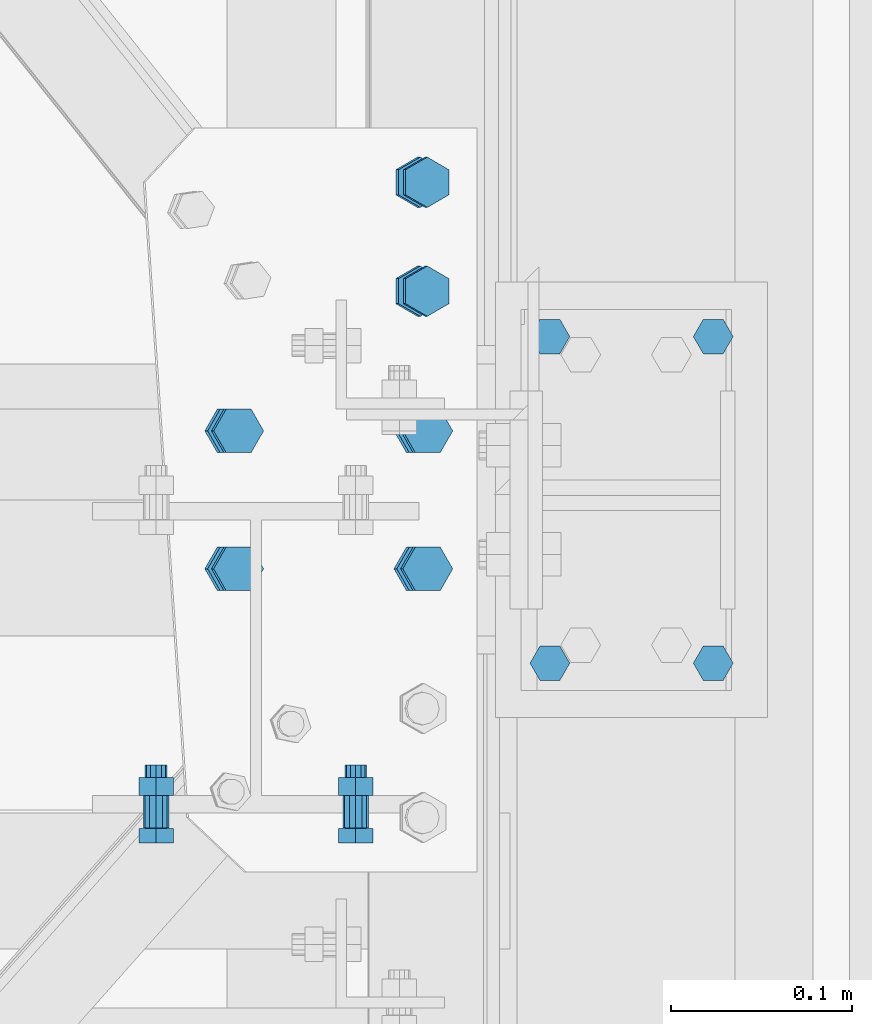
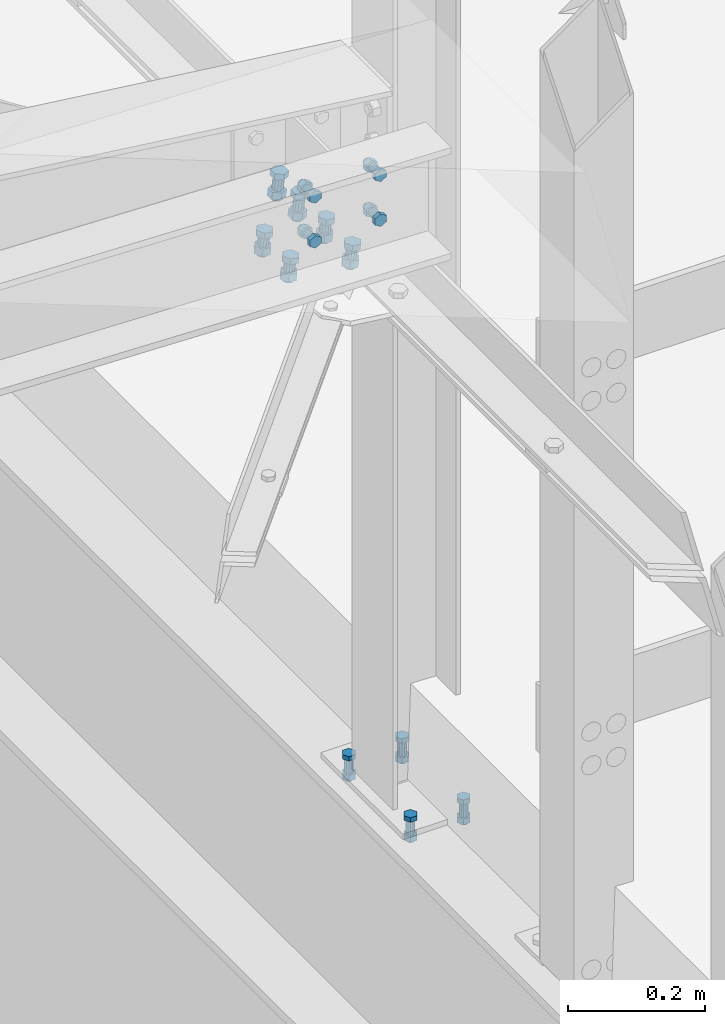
# One storey, part 365 of 3134: 4 mechanical fasteners, 4 elements without a shape of their own.
"""IFC2X3 building model written with IfcOpenShell, lengths in millimetres."""

import ifcopenshell
import ifcopenshell.guid

model = None  # the IFC model being written
_history = None  # IfcOwnerHistory: only IFC2X3 demands one
_inside = {}  # id of a spatial element -> (the spatial element, [elements in it])
_under = {}  # id of a project, library or spatial element -> (it, [spatial elements below it])
_declared = {}  # id of a project -> (the project, [libraries it declares])
_typed = {}  # id of a type object -> (the type object, [elements of that type])
_made_of = {}  # id of a material, layer set ... -> (it, [elements and type objects made of it])


def new_model(schema):
    """Start an empty IFC model of exactly this schema.

    Asked for "IFC4X3", IfcOpenShell would pick the latest addendum, in which some entities
    have other attributes; the version numbers below select the first issue.
    IFC2X3 requires an IfcOwnerHistory on every rooted entity: one is made here for all.
    """
    global model, _history
    if schema == "IFC4X3":
        model = ifcopenshell.file(schema_version=(4, 3, 0, 0))
    else:
        model = ifcopenshell.file(schema=schema)
    _inside.clear()
    _under.clear()
    _declared.clear()
    _typed.clear()
    _made_of.clear()
    _history = None
    if model.schema == "IFC2X3":
        org = make("IfcOrganization", Name="unknown")
        user = make(
            "IfcPersonAndOrganization",
            ThePerson=make("IfcPerson", FamilyName="unknown"),
            TheOrganization=org,
        )
        app = make(
            "IfcApplication",
            ApplicationDeveloper=org,
            Version="unknown",
            ApplicationFullName="unknown",
            ApplicationIdentifier="unknown",
        )
        _history = make(
            "IfcOwnerHistory",
            OwningUser=user,
            OwningApplication=app,
            ChangeAction="ADDED",
            CreationDate=0,
        )
    return model


def make(cls, **values):
    """One entity of the class cls with the attributes given. An attribute that is None is left unset."""
    return model.create_entity(
        cls, **{name: value for name, value in values.items() if value is not None}
    )


def rooted(cls, **values):
    """An entity with a GlobalId (a new one), such as an element, a storey or a relation."""
    return make(cls, GlobalId=ifcopenshell.guid.new(), OwnerHistory=_history, **values)


def si_unit(unit_type, name, prefix=None):
    """IfcSIUnit, for example si_unit("LENGTHUNIT", "METRE", prefix="MILLI")."""
    return make("IfcSIUnit", UnitType=unit_type, Prefix=prefix, Name=name)


def assignment(units):
    """IfcUnitAssignment: the units of a project."""
    return None if units is None else make("IfcUnitAssignment", Units=units)


def point(xyz):
    """IfcCartesianPoint."""
    return None if xyz is None else make("IfcCartesianPoint", Coordinates=xyz)


def direction(xyz):
    """IfcDirection."""
    return None if xyz is None else make("IfcDirection", DirectionRatios=xyz)


def frame(location, z_axis=None, x_axis=None):
    """IfcAxis2Placement3D, a coordinate frame: its origin and axes. An axis left out is left unset."""
    return make(
        "IfcAxis2Placement3D",
        Location=point(location),
        Axis=direction(z_axis),
        RefDirection=direction(x_axis),
    )


def origin_with_axes():
    """The frame at (0, 0, 0) with the z axis (0, 0, 1) and the x axis (1, 0, 0) written out."""
    return frame((0.0, 0.0, 0.0), z_axis=(0.0, 0.0, 1.0), x_axis=(1.0, 0.0, 0.0))


def place(relative_to, where):
    """IfcLocalPlacement: puts the frame where relative to a parent placement (None: the world)."""
    return make(
        "IfcLocalPlacement", PlacementRelTo=relative_to, RelativePlacement=where
    )


def context(
    kind, dimensions, precision=None, world=None, true_north=None, identifier=None
):
    """IfcGeometricRepresentationContext, for example the 3D "Model" context."""
    return make(
        "IfcGeometricRepresentationContext",
        ContextIdentifier=identifier,
        ContextType=kind,
        CoordinateSpaceDimension=dimensions,
        Precision=precision,
        WorldCoordinateSystem=world,
        TrueNorth=true_north,
    )


def subcontext(parent, identifier, kind, view, scale=None):
    """IfcGeometricRepresentationSubContext, for example "Body" below "Model"."""
    return make(
        "IfcGeometricRepresentationSubContext",
        ContextIdentifier=identifier,
        ContextType=kind,
        ParentContext=parent,
        TargetScale=scale,
        TargetView=view,
    )


def project(units=None, contexts=None):
    """IfcProject with its units and contexts."""
    return rooted(
        "IfcProject",
        Name="project",
        RepresentationContexts=contexts,
        UnitsInContext=assignment(units),
    )


def spatial(cls, under=None, at=None, **own):
    """A site, building, storey or space (cls), placed at a placement, below another one or the project."""
    s = rooted(cls, ObjectPlacement=at, **own)
    if under is not None:
        _under.setdefault(under.id(), (under, []))[1].append(s)
    return s


def faces_of(points, faces, orient=None, outer=None):
    """IfcFace entities. A face is a list of loops; a loop is a list of indices into points, from 0.

    orient and outer hold one flag for each loop. By default every Orientation is true, the
    first loop of a face is its IfcFaceOuterBound and the others are IfcFaceBound.
    """
    made = []
    for i, loops in enumerate(faces):
        bounds = []
        for j, loop in enumerate(loops):
            is_outer = j == 0 if outer is None else outer[i][j]
            bounds.append(
                make(
                    "IfcFaceOuterBound" if is_outer else "IfcFaceBound",
                    Bound=make("IfcPolyLoop", Polygon=[points[k] for k in loop]),
                    Orientation=True if orient is None else orient[i][j],
                )
            )
        made.append(make("IfcFace", Bounds=bounds))
    return made


def faceted_brep(points, faces, orient=None, outer=None, voids=None):
    """IfcFacetedBrep: a solid bounded by flat faces; with voids (closed shells), ...WithVoids."""
    shared = [point(p) for p in points]
    hull = make("IfcClosedShell", CfsFaces=faces_of(shared, faces, orient, outer))
    if voids is None:
        return make("IfcFacetedBrep", Outer=hull)
    return make(
        "IfcFacetedBrepWithVoids",
        Outer=hull,
        Voids=[
            make(cls, CfsFaces=faces_of(shared, fs, o, b)) for cls, fs, o, b in voids
        ],
    )


def shape(context_of_items, identifier, shape_type, items):
    """IfcShapeRepresentation: the items that make up one representation, for example the "Body"."""
    return make(
        "IfcShapeRepresentation",
        ContextOfItems=context_of_items,
        RepresentationIdentifier=identifier,
        RepresentationType=shape_type,
        Items=items,
    )


def source(mapping_origin, context_of_items, identifier, shape_type, items):
    """IfcRepresentationMap: a shape defined once, which mapped items show again and again."""
    return make(
        "IfcRepresentationMap",
        MappingOrigin=mapping_origin,
        MappedRepresentation=shape(context_of_items, identifier, shape_type, items),
    )


def transform(
    local_origin,
    x_axis=None,
    y_axis=None,
    z_axis=None,
    scale=None,
    scale2=None,
    scale3=None,
    uniform=True,
):
    """IfcCartesianTransformationOperator3D, or its non-uniform kind. x_axis, y_axis, z_axis: its Axis1, 2, 3."""
    if uniform:
        return make(
            "IfcCartesianTransformationOperator3D",
            Axis1=direction(x_axis),
            Axis2=direction(y_axis),
            LocalOrigin=point(local_origin),
            Scale=scale,
            Axis3=direction(z_axis),
        )
    return make(
        "IfcCartesianTransformationOperator3DnonUniform",
        Axis1=direction(x_axis),
        Axis2=direction(y_axis),
        LocalOrigin=point(local_origin),
        Scale=scale,
        Axis3=direction(z_axis),
        Scale2=scale2,
        Scale3=scale3,
    )


def mapped(mapping_source, mapping_target):
    """IfcMappedItem: shows the shape of a source again, moved by a transform."""
    return make(
        "IfcMappedItem", MappingSource=mapping_source, MappingTarget=mapping_target
    )


def material(Name=None, Category=None):
    """IfcMaterial."""
    return make("IfcMaterial", Name=Name, Category=Category)


def made_of(thing, what):
    """Note that an element or type object is made of a material, layer set ...; save() writes the relation."""
    if what is not None:
        _made_of.setdefault(what.id(), (what, []))[1].append(thing)
    return thing


def type_object(cls, material=None, **own):
    """A type object (cls), such as IfcWallType, which elements share."""
    return made_of(rooted(cls, **own), material)


def element(
    cls,
    number,
    at=None,
    inside=None,
    cuts=None,
    type_object=None,
    material=None,
    context=None,
    identifier="Body",
    shape_type=None,
    held_by="IfcProductDefinitionShape",
    body=None,
    shapes=None,
    **own,
):
    """One element of the class cls, such as IfcWall. Its Tag is "e" and its number.

    at: its placement. inside: the storey or other place that contains it. cuts: it is an
    opening in that element (IfcRelVoidsElement). A single representation is given by context,
    identifier, shape_type and body (its items); several are given by shapes. held_by: the class
    of the entity that holds the representations. save() writes the other relations.
    """
    e = rooted(cls, Tag="e%d" % number, ObjectPlacement=at, **own)
    if body is not None:
        shapes = [shape(context, identifier, shape_type, body)]
    if shapes is not None:
        e.Representation = make(held_by, Representations=shapes)
    if inside is not None:
        _inside.setdefault(inside.id(), (inside, []))[1].append(e)
    if cuts is not None:
        rooted(
            "IfcRelVoidsElement", RelatingBuildingElement=cuts, RelatedOpeningElement=e
        )
    if type_object is not None:
        _typed.setdefault(type_object.id(), (type_object, []))[1].append(e)
    return made_of(e, material)


def aggregate(whole, parts):
    """IfcRelAggregates: a whole, such as a stair, and the parts it consists of."""
    return rooted("IfcRelAggregates", RelatingObject=whole, RelatedObjects=parts)


def save(model, path):
    """Write the relations noted so far, then the file.

    IfcRelAggregates (storeys below a building ...), IfcRelContainedInSpatialStructure (elements
    in a storey), IfcRelDefinesByType, IfcRelAssociatesMaterial and IfcRelDeclares: one each for
    every whole, place, type object, material and project.
    """
    for whole, parts in _under.values():
        aggregate(whole, parts)
    for where, things in _inside.values():
        rooted(
            "IfcRelContainedInSpatialStructure",
            RelatedElements=things,
            RelatingStructure=where,
        )
    for kind, things in _typed.values():
        rooted("IfcRelDefinesByType", RelatedObjects=things, RelatingType=kind)
    for what, things in _made_of.values():
        rooted("IfcRelAssociatesMaterial", RelatedObjects=things, RelatingMaterial=what)
    for by, libraries in _declared.values():
        rooted("IfcRelDeclares", RelatingContext=by, RelatedDefinitions=libraries)
    model.write(path)


model = new_model("IFC2X3")

# Units and contexts
model_context = context("Model", 3, precision=1e-05, world=origin_with_axes())
body_context = subcontext(model_context, "Body", "Model", "MODEL_VIEW")
ifc_project = project(units=[si_unit("LENGTHUNIT", "METRE", prefix="MILLI"), si_unit("AREAUNIT", "SQUARE_METRE"), si_unit("VOLUMEUNIT", "CUBIC_METRE"), si_unit("MASSUNIT", "GRAM", prefix="KILO"), si_unit("TIMEUNIT", "SECOND"), si_unit("PLANEANGLEUNIT", "RADIAN"), si_unit("SOLIDANGLEUNIT", "STERADIAN"), si_unit("THERMODYNAMICTEMPERATUREUNIT", "DEGREE_CELSIUS"), si_unit("LUMINOUSINTENSITYUNIT", "LUMEN")], contexts=[model_context])

# Site, building, storey
site_placement = place(None, origin_with_axes())
site = spatial("IfcSite", under=ifc_project, at=site_placement, CompositionType="ELEMENT")
building_placement = place(site_placement, origin_with_axes())
building = spatial("IfcBuilding", under=site, at=building_placement, Name="Undefined", CompositionType="ELEMENT")
storey_placement = place(building_placement, origin_with_axes())
storey = spatial("IfcBuildingStorey", under=building, at=storey_placement, Name="Undefined", CompositionType="ELEMENT", Elevation=0.0)

# Assembly, mechanical fastener
assembly_1_placement = place(storey_placement, origin_with_axes())
assembly_1 = element("IfcElementAssembly", 1, at=assembly_1_placement, inside=storey, Name="IPE500", AssemblyPlace="NOTDEFINED", PredefinedType="RIGID_FRAME")
ifc_material = material(Name="8.8")
mechanical_fastener_type = type_object("IfcMechanicalFastenerType", Name="Bolt assembly")
shared_shape_1 = source(origin_with_axes(), body_context, "Body", "Brep", [
    faceted_brep([(10.9696551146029, -18.0, 0.0), (5.48482755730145, -18.0, 9.5), (-5.48482755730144, -18.0, 9.5), (-10.9696551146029, -18.0, 1.34339530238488e-15), (-5.48482755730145, -18.0, -9.5), (5.48482755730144, -18.0, -9.50000000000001), (5.48482755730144, -10.0, -9.50000000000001), (-5.48482755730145, -10.0, -9.5), (-10.9696551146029, -10.0, 1.34339530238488e-15), (-5.48482755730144, -10.0, 9.5), (5.48482755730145, -10.0, 9.5), (10.9696551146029, -10.0, 0.0), (6.0, -10.0, 0.0), (5.19615242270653, -10.0, 3.00000000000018), (2.99999999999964, -10.0, 5.19615242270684), (-6.21801588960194e-13, -10.0, 6.0), (-3.00000000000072, -10.0, 5.19615242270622), (-5.19615242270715, -10.0, 2.9999999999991), (-6.0, -10.0, -1.24360317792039e-12), (-5.19615242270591, -10.0, -3.00000000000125), (-2.99999999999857, -10.0, -5.19615242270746), (1.85874342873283e-12, -10.0, -6.0), (3.00000000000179, -10.0, -5.1961524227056), (5.19615242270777, -10.0, -2.99999999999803), (5.19615242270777, 30.0, -2.99999999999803), (3.00000000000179, 30.0, -5.1961524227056), (1.85874342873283e-12, 30.0, -6.0), (-2.99999999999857, 30.0, -5.19615242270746), (-5.19615242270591, 30.0, -3.00000000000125), (-6.0, 30.0, -1.24360317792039e-12), (-5.19615242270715, 30.0, 2.9999999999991), (-3.00000000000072, 30.0, 5.19615242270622), (-6.21801588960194e-13, 30.0, 6.0), (2.99999999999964, 30.0, 5.19615242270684), (5.19615242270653, 30.0, 3.00000000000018), (6.0, 30.0, 0.0), (10.9696551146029, 16.0, 0.0), (5.48482755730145, 16.0, 9.5), (-5.48482755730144, 16.0, 9.5), (-10.9696551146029, 16.0, 1.34339530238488e-15), (-5.48482755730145, 16.0, -9.5), (5.48482755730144, 16.0, -9.50000000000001), (5.48482755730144, 26.0000003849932, -9.50000000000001), (-5.48482755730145, 26.0000003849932, -9.5), (-10.9696551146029, 26.0000003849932, 1.34339530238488e-15), (-5.48482755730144, 26.0000003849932, 9.5), (5.48482755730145, 26.0000003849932, 9.5), (10.9696551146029, 26.0000003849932, 0.0)], [[[0, 1, 2, 3, 4, 5]], [[6, 7, 8, 9, 10, 11]], [[0, 11, 10, 1]], [[1, 10, 9, 2]], [[2, 9, 8, 3]], [[3, 8, 7, 4]], [[4, 7, 6, 5]], [[5, 6, 11, 0]], [[12, 13, 14, 15, 16, 17, 18, 19, 20, 21, 22, 23]], [[24, 25, 26, 27, 28, 29, 30, 31, 32, 33, 34, 35]], [[12, 35, 34, 13]], [[13, 34, 33, 14]], [[14, 33, 32, 15]], [[15, 32, 31, 16]], [[16, 31, 30, 17]], [[17, 30, 29, 18]], [[18, 29, 28, 19]], [[19, 28, 27, 20]], [[20, 27, 26, 21]], [[21, 26, 25, 22]], [[22, 25, 24, 23]], [[23, 24, 35, 12]], [[36, 37, 38, 39, 40, 41]], [[42, 43, 44, 45, 46, 47]], [[36, 47, 46, 37]], [[37, 46, 45, 38]], [[38, 45, 44, 39]], [[39, 44, 43, 40]], [[40, 43, 42, 41]], [[41, 42, 47, 36]]]),
    faceted_brep([(7.0, -9.89999913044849, 0.0), (6.06217782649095, -9.89999913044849, 3.50000000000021), (3.49999999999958, -9.89999913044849, 6.06217782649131), (-7.25435187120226e-13, -9.89999913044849, 7.0), (-3.50000000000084, -9.89999913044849, 6.06217782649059), (-6.06217782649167, -9.89999913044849, 3.49999999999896), (-7.0, -9.89999913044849, -1.45087037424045e-12), (-6.06217782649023, -9.89999913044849, -3.50000000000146), (-3.49999999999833, -9.89999913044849, -6.06217782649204), (2.1685340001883e-12, -9.89999913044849, -7.0), (3.50000000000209, -9.89999913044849, -6.06217782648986), (6.0621778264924, -9.89999913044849, -3.4999999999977), (6.0621778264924, 0.0999999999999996, -3.4999999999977), (3.50000000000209, 0.0999999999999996, -6.06217782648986), (2.1685340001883e-12, 0.0999999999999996, -7.0), (-3.49999999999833, 0.0999999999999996, -6.06217782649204), (-6.06217782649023, 0.0999999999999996, -3.50000000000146), (-7.0, 0.0999999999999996, -1.45087037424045e-12), (-6.06217782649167, 0.0999999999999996, 3.49999999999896), (-3.50000000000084, 0.0999999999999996, 6.06217782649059), (-7.25435187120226e-13, 0.0999999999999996, 7.0), (3.49999999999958, 0.0999999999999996, 6.06217782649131), (6.06217782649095, 0.0999999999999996, 3.50000000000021), (7.0, 0.0999999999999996, 0.0), (7.0, -0.1, 0.0), (6.06217782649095, -0.1, 3.50000000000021), (3.49999999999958, -0.1, 6.06217782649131), (-7.25435187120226e-13, -0.1, 7.0), (-3.50000000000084, -0.1, 6.06217782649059), (-6.06217782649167, -0.1, 3.49999999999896), (-7.0, -0.1, -1.45087037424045e-12), (-6.06217782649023, -0.1, -3.50000000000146), (-3.49999999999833, -0.1, -6.06217782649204), (2.1685340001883e-12, -0.1, -7.0), (3.50000000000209, -0.1, -6.06217782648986), (6.0621778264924, -0.1, -3.4999999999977), (6.0621778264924, 16.0000003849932, -3.4999999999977), (3.50000000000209, 16.0000003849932, -6.06217782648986), (2.1685340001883e-12, 16.0000003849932, -7.0), (-3.49999999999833, 16.0000003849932, -6.06217782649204), (-6.06217782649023, 16.0000003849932, -3.50000000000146), (-7.0, 16.0000003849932, -1.45087037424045e-12), (-6.06217782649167, 16.0000003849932, 3.49999999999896), (-3.50000000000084, 16.0000003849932, 6.06217782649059), (-7.25435187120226e-13, 16.0000003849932, 7.0), (3.49999999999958, 16.0000003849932, 6.06217782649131), (6.06217782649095, 16.0000003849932, 3.50000000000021), (7.0, 16.0000003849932, 0.0)], [[[0, 1, 2, 3, 4, 5, 6, 7, 8, 9, 10, 11]], [[12, 13, 14, 15, 16, 17, 18, 19, 20, 21, 22, 23]], [[0, 23, 22, 1]], [[1, 22, 21, 2]], [[2, 21, 20, 3]], [[3, 20, 19, 4]], [[4, 19, 18, 5]], [[5, 18, 17, 6]], [[6, 17, 16, 7]], [[7, 16, 15, 8]], [[8, 15, 14, 9]], [[9, 14, 13, 10]], [[10, 13, 12, 11]], [[11, 12, 23, 0]], [[24, 25, 26, 27, 28, 29, 30, 31, 32, 33, 34, 35]], [[36, 37, 38, 39, 40, 41, 42, 43, 44, 45, 46, 47]], [[24, 47, 46, 25]], [[25, 46, 45, 26]], [[26, 45, 44, 27]], [[27, 44, 43, 28]], [[28, 43, 42, 29]], [[29, 42, 41, 30]], [[30, 41, 40, 31]], [[31, 40, 39, 32]], [[32, 39, 38, 33]], [[33, 38, 37, 34]], [[34, 37, 36, 35]], [[35, 36, 47, 24]]]),
])
mechanical_fastener_1_placement = place(assembly_1_placement, frame((71770.0, 19449.9999999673, 4000.00000038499), z_axis=(0.0, 1.0, 0.0), x_axis=(1.0, 0.0, 0.0)))
mechanical_fastener_1 = element("IfcMechanicalFastener", 2, at=mechanical_fastener_1_placement, type_object=mechanical_fastener_type, material=ifc_material, Name="Bolt assembly", NominalDiameter=12.0, NominalLength=40.0, context=body_context, shape_type="MappedRepresentation", body=[
    mapped(shared_shape_1, transform((0.0, 0.0, -90.0))),
    mapped(shared_shape_1, transform((90.0, 0.0, -90.0))),
    mapped(shared_shape_1, transform((0.0, 0.0, 90.0))),
    mapped(shared_shape_1, transform((90.0, 0.0, 90.0))),
])
aggregate(assembly_1, [mechanical_fastener_1])

assembly_2_placement = place(storey_placement, origin_with_axes())
assembly_2 = element("IfcElementAssembly", 3, at=assembly_2_placement, inside=storey, Name="UPN200", AssemblyPlace="NOTDEFINED", PredefinedType="RIGID_FRAME")
shared_shape_2 = source(origin_with_axes(), body_context, "Body", "Brep", [
    faceted_brep([(10.9696551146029, -16.5, 0.0), (5.48482755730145, -16.5, 9.5), (-5.48482755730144, -16.5, 9.5), (-10.9696551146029, -16.5, 1.34339530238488e-15), (-5.48482755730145, -16.5, -9.5), (5.48482755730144, -16.5, -9.50000000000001), (5.48482755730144, -8.5, -9.50000000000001), (-5.48482755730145, -8.5, -9.5), (-10.9696551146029, -8.5, 1.34339530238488e-15), (-5.48482755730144, -8.5, 9.5), (5.48482755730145, -8.5, 9.5), (10.9696551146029, -8.5, 0.0), (6.0, -8.5, 0.0), (5.19615242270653, -8.5, 3.00000000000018), (2.99999999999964, -8.5, 5.19615242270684), (-6.21801588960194e-13, -8.5, 6.0), (-3.00000000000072, -8.5, 5.19615242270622), (-5.19615242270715, -8.5, 2.9999999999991), (-6.0, -8.5, -1.24360317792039e-12), (-5.19615242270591, -8.5, -3.00000000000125), (-2.99999999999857, -8.5, -5.19615242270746), (1.85874342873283e-12, -8.5, -6.0), (3.00000000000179, -8.5, -5.1961524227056), (5.19615242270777, -8.5, -2.99999999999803), (5.19615242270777, 26.5, -2.99999999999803), (3.00000000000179, 26.5, -5.1961524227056), (1.85874342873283e-12, 26.5, -6.0), (-2.99999999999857, 26.5, -5.19615242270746), (-5.19615242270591, 26.5, -3.00000000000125), (-6.0, 26.5, -1.24360317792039e-12), (-5.19615242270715, 26.5, 2.9999999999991), (-3.00000000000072, 26.5, 5.19615242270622), (-6.21801588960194e-13, 26.5, 6.0), (2.99999999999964, 26.5, 5.19615242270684), (5.19615242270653, 26.5, 3.00000000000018), (6.0, 26.5, 0.0), (10.9696551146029, 9.5, 0.0), (5.48482755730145, 9.5, 9.5), (-5.48482755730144, 9.5, 9.5), (-10.9696551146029, 9.5, 1.34339530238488e-15), (-5.48482755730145, 9.5, -9.5), (5.48482755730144, 9.5, -9.50000000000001), (5.48482755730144, 19.5, -9.50000000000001), (-5.48482755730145, 19.5, -9.5), (-10.9696551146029, 19.5, 1.34339530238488e-15), (-5.48482755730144, 19.5, 9.5), (5.48482755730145, 19.5, 9.5), (10.9696551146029, 19.5, 0.0)], [[[0, 1, 2, 3, 4, 5]], [[6, 7, 8, 9, 10, 11]], [[0, 11, 10, 1]], [[1, 10, 9, 2]], [[2, 9, 8, 3]], [[3, 8, 7, 4]], [[4, 7, 6, 5]], [[5, 6, 11, 0]], [[12, 13, 14, 15, 16, 17, 18, 19, 20, 21, 22, 23]], [[24, 25, 26, 27, 28, 29, 30, 31, 32, 33, 34, 35]], [[12, 35, 34, 13]], [[13, 34, 33, 14]], [[14, 33, 32, 15]], [[15, 32, 31, 16]], [[16, 31, 30, 17]], [[17, 30, 29, 18]], [[18, 29, 28, 19]], [[19, 28, 27, 20]], [[20, 27, 26, 21]], [[21, 26, 25, 22]], [[22, 25, 24, 23]], [[23, 24, 35, 12]], [[36, 37, 38, 39, 40, 41]], [[42, 43, 44, 45, 46, 47]], [[36, 47, 46, 37]], [[37, 46, 45, 38]], [[38, 45, 44, 39]], [[39, 44, 43, 40]], [[40, 43, 42, 41]], [[41, 42, 47, 36]]]),
    faceted_brep([(7.0, -0.1, 0.0), (6.06217782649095, -0.1, 3.50000000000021), (3.49999999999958, -0.1, 6.06217782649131), (-7.25435187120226e-13, -0.1, 7.0), (-3.50000000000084, -0.1, 6.06217782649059), (-6.06217782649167, -0.1, 3.49999999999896), (-7.0, -0.1, -1.45087037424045e-12), (-6.06217782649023, -0.1, -3.50000000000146), (-3.49999999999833, -0.1, -6.06217782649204), (2.1685340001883e-12, -0.1, -7.0), (3.50000000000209, -0.1, -6.06217782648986), (6.0621778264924, -0.1, -3.4999999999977), (6.0621778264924, 9.5, -3.4999999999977), (3.50000000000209, 9.5, -6.06217782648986), (2.1685340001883e-12, 9.5, -7.0), (-3.49999999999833, 9.5, -6.06217782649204), (-6.06217782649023, 9.5, -3.50000000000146), (-7.0, 9.5, -1.45087037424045e-12), (-6.06217782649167, 9.5, 3.49999999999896), (-3.50000000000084, 9.5, 6.06217782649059), (-7.25435187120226e-13, 9.5, 7.0), (3.49999999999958, 9.5, 6.06217782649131), (6.06217782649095, 9.5, 3.50000000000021), (7.0, 9.5, 0.0), (7.0, -8.4, 0.0), (6.06217782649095, -8.4, 3.50000000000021), (3.49999999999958, -8.4, 6.06217782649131), (-7.25435187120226e-13, -8.4, 7.0), (-3.50000000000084, -8.4, 6.06217782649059), (-6.06217782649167, -8.4, 3.49999999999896), (-7.0, -8.4, -1.45087037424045e-12), (-6.06217782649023, -8.4, -3.50000000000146), (-3.49999999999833, -8.4, -6.06217782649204), (2.1685340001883e-12, -8.4, -7.0), (3.50000000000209, -8.4, -6.06217782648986), (6.0621778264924, -8.4, -3.4999999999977), (6.0621778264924, 0.0999999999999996, -3.4999999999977), (3.50000000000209, 0.0999999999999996, -6.06217782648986), (2.1685340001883e-12, 0.0999999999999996, -7.0), (-3.49999999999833, 0.0999999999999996, -6.06217782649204), (-6.06217782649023, 0.0999999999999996, -3.50000000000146), (-7.0, 0.0999999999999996, -1.45087037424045e-12), (-6.06217782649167, 0.0999999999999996, 3.49999999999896), (-3.50000000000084, 0.0999999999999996, 6.06217782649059), (-7.25435187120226e-13, 0.0999999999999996, 7.0), (3.49999999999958, 0.0999999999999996, 6.06217782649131), (6.06217782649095, 0.0999999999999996, 3.50000000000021), (7.0, 0.0999999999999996, 0.0)], [[[0, 1, 2, 3, 4, 5, 6, 7, 8, 9, 10, 11]], [[12, 13, 14, 15, 16, 17, 18, 19, 20, 21, 22, 23]], [[0, 23, 22, 1]], [[1, 22, 21, 2]], [[2, 21, 20, 3]], [[3, 20, 19, 4]], [[4, 19, 18, 5]], [[5, 18, 17, 6]], [[6, 17, 16, 7]], [[7, 16, 15, 8]], [[8, 15, 14, 9]], [[9, 14, 13, 10]], [[10, 13, 12, 11]], [[11, 12, 23, 0]], [[24, 25, 26, 27, 28, 29, 30, 31, 32, 33, 34, 35]], [[36, 37, 38, 39, 40, 41, 42, 43, 44, 45, 46, 47]], [[24, 47, 46, 25]], [[25, 46, 45, 26]], [[26, 45, 44, 27]], [[27, 44, 43, 28]], [[28, 43, 42, 29]], [[29, 42, 41, 30]], [[30, 41, 40, 31]], [[31, 40, 39, 32]], [[32, 39, 38, 33]], [[33, 38, 37, 34]], [[34, 37, 36, 35]], [[35, 36, 47, 24]]]),
])
mechanical_fastener_2_placement = place(assembly_2_placement, frame((71608.0000002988, 19277.5, 5254.15696472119), z_axis=(1.0, 0.0, 0.0), x_axis=(0.0, 0.0, -1.0)))
mechanical_fastener_2 = element("IfcMechanicalFastener", 4, at=mechanical_fastener_2_placement, type_object=mechanical_fastener_type, material=ifc_material, Name="Bolt assembly", NominalDiameter=12.0, NominalLength=35.0, context=body_context, shape_type="MappedRepresentation", body=[
    mapped(shared_shape_2, transform((0.0, -2.31011654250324e-10, -55.0000000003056))),
    mapped(shared_shape_2, transform((80.0, 0.0, -55.0))),
    mapped(shared_shape_2, transform((0.0, 2.29192664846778e-10, 55.0000000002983))),
    mapped(shared_shape_2, transform((80.0, 0.0, 55.0))),
])
aggregate(assembly_2, [mechanical_fastener_2])

assembly_3_placement = place(storey_placement, origin_with_axes())
assembly_3 = element("IfcElementAssembly", 5, at=assembly_3_placement, inside=storey, Name="PL8", AssemblyPlace="NOTDEFINED", PredefinedType="RIGID_FRAME")
shared_shape_3 = source(origin_with_axes(), body_context, "Body", "Brep", [
    faceted_brep([(13.856406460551, -23.202981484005, 0.0), (6.92820323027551, -23.202981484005, 12.0), (-6.92820323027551, -23.202981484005, 12.0), (-13.856406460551, -23.202981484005, 1.69692038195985e-15), (-6.92820323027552, -23.202981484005, -12.0), (6.9282032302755, -23.202981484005, -12.0), (6.9282032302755, -13.202981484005, -12.0), (-6.92820323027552, -13.202981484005, -12.0), (-13.856406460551, -13.202981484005, 1.69692038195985e-15), (-6.92820323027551, -13.202981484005, 12.0), (6.92820323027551, -13.202981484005, 12.0), (13.856406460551, -13.202981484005, 0.0), (8.0, -13.202981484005, 0.0), (6.92820323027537, -13.202981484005, 4.00000000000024), (3.99999999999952, -13.202981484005, 6.92820323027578), (-8.29068785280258e-13, -13.202981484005, 8.0), (-4.00000000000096, -13.202981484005, 6.92820323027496), (-6.9282032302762, -13.202981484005, 3.99999999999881), (-8.0, -13.202981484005, -1.65813757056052e-12), (-6.92820323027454, -13.202981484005, -4.00000000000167), (-3.99999999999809, -13.202981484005, -6.92820323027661), (2.47832457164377e-12, -13.202981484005, -8.0), (4.00000000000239, -13.202981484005, -6.92820323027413), (6.92820323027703, -13.202981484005, -3.99999999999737), (6.92820323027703, 21.797018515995, -3.99999999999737), (4.00000000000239, 21.797018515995, -6.92820323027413), (2.47832457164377e-12, 21.797018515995, -8.0), (-3.99999999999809, 21.797018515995, -6.92820323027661), (-6.92820323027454, 21.797018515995, -4.00000000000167), (-8.0, 21.797018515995, -1.65813757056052e-12), (-6.9282032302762, 21.797018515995, 3.99999999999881), (-4.00000000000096, 21.797018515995, 6.92820323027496), (-8.29068785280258e-13, 21.797018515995, 8.0), (3.99999999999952, 21.797018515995, 6.92820323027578), (6.92820323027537, 21.797018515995, 4.00000000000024), (8.0, 21.797018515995, 0.0), (13.856406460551, 3.99999999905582, 0.0), (6.92820323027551, 3.99999999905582, 12.0), (-6.92820323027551, 3.99999999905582, 12.0), (-13.856406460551, 3.99999999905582, 1.69692038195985e-15), (-6.92820323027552, 3.99999999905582, -12.0), (6.9282032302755, 3.99999999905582, -12.0), (6.9282032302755, 16.9999999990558, -12.0), (-6.92820323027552, 16.9999999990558, -12.0), (-13.856406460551, 16.9999999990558, 1.69692038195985e-15), (-6.92820323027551, 16.9999999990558, 12.0), (6.92820323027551, 16.9999999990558, 12.0), (13.856406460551, 16.9999999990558, 0.0)], [[[0, 1, 2, 3, 4, 5]], [[6, 7, 8, 9, 10, 11]], [[0, 11, 10, 1]], [[1, 10, 9, 2]], [[2, 9, 8, 3]], [[3, 8, 7, 4]], [[4, 7, 6, 5]], [[5, 6, 11, 0]], [[12, 13, 14, 15, 16, 17, 18, 19, 20, 21, 22, 23]], [[24, 25, 26, 27, 28, 29, 30, 31, 32, 33, 34, 35]], [[12, 35, 34, 13]], [[13, 34, 33, 14]], [[14, 33, 32, 15]], [[15, 32, 31, 16]], [[16, 31, 30, 17]], [[17, 30, 29, 18]], [[18, 29, 28, 19]], [[19, 28, 27, 20]], [[20, 27, 26, 21]], [[21, 26, 25, 22]], [[22, 25, 24, 23]], [[23, 24, 35, 12]], [[36, 37, 38, 39, 40, 41]], [[42, 43, 44, 45, 46, 47]], [[36, 47, 46, 37]], [[37, 46, 45, 38]], [[38, 45, 44, 39]], [[39, 44, 43, 40]], [[40, 43, 42, 41]], [[41, 42, 47, 36]]]),
    faceted_brep([(9.0, -13.102981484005, 0.0), (7.79422863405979, -13.102981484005, 4.50000000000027), (4.49999999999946, -13.102981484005, 7.79422863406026), (-9.3270238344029e-13, -13.102981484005, 9.0), (-4.50000000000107, -13.102981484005, 7.79422863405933), (-7.79422863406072, -13.102981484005, 4.49999999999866), (-9.0, -13.102981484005, -1.86540476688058e-12), (-7.79422863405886, -13.102981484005, -4.50000000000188), (-4.49999999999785, -13.102981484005, -7.79422863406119), (2.78811514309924e-12, -13.102981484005, -9.0), (4.50000000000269, -13.102981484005, -7.7942286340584), (7.79422863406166, -13.102981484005, -4.49999999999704), (7.79422863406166, -3.90298167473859, -4.49999999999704), (4.50000000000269, -3.90298167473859, -7.7942286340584), (2.78811514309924e-12, -3.90298167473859, -9.0), (-4.49999999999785, -3.90298167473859, -7.79422863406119), (-7.79422863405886, -3.90298167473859, -4.50000000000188), (-9.0, -3.90298167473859, -1.86540476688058e-12), (-7.79422863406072, -3.90298167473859, 4.49999999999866), (-4.50000000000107, -3.90298167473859, 7.79422863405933), (-9.3270238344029e-13, -3.90298167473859, 9.0), (4.49999999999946, -3.90298167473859, 7.79422863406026), (7.79422863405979, -3.90298167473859, 4.50000000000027), (9.0, -3.90298167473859, 0.0), (9.0, -4.10000000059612, 0.0), (7.79422863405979, -4.10000000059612, 4.50000000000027), (4.49999999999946, -4.10000000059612, 7.79422863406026), (-9.3270238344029e-13, -4.10000000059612, 9.0), (-4.50000000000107, -4.10000000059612, 7.79422863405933), (-7.79422863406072, -4.10000000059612, 4.49999999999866), (-9.0, -4.10000000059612, -1.86540476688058e-12), (-7.79422863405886, -4.10000000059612, -4.50000000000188), (-4.49999999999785, -4.10000000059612, -7.79422863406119), (2.78811514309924e-12, -4.10000000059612, -9.0), (4.50000000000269, -4.10000000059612, -7.7942286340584), (7.79422863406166, -4.10000000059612, -4.49999999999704), (7.79422863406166, 4.00000375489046, -4.49999999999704), (4.50000000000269, 4.00000375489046, -7.7942286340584), (2.78811514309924e-12, 4.00000375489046, -9.0), (-4.49999999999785, 4.00000375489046, -7.79422863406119), (-7.79422863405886, 4.00000375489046, -4.50000000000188), (-9.0, 4.00000375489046, -1.86540476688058e-12), (-7.79422863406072, 4.00000375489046, 4.49999999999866), (-4.50000000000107, 4.00000375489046, 7.79422863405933), (-9.3270238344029e-13, 4.00000375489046, 9.0), (4.49999999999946, 4.00000375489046, 7.79422863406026), (7.79422863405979, 4.00000375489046, 4.50000000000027), (9.0, 4.00000375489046, 0.0)], [[[0, 1, 2, 3, 4, 5, 6, 7, 8, 9, 10, 11]], [[12, 13, 14, 15, 16, 17, 18, 19, 20, 21, 22, 23]], [[0, 23, 22, 1]], [[1, 22, 21, 2]], [[2, 21, 20, 3]], [[3, 20, 19, 4]], [[4, 19, 18, 5]], [[5, 18, 17, 6]], [[6, 17, 16, 7]], [[7, 16, 15, 8]], [[8, 15, 14, 9]], [[9, 14, 13, 10]], [[10, 13, 12, 11]], [[11, 12, 23, 0]], [[24, 25, 26, 27, 28, 29, 30, 31, 32, 33, 34, 35]], [[36, 37, 38, 39, 40, 41, 42, 43, 44, 45, 46, 47]], [[24, 47, 46, 25]], [[25, 46, 45, 26]], [[26, 45, 44, 27]], [[27, 44, 43, 28]], [[28, 43, 42, 29]], [[29, 42, 41, 30]], [[30, 41, 40, 31]], [[31, 40, 39, 32]], [[32, 39, 38, 33]], [[33, 38, 37, 34]], [[34, 37, 36, 35]], [[35, 36, 47, 24]]]),
])
mechanical_fastener_3_placement = place(assembly_3_placement, frame((71699.895414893, 19449.9999997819, 5008.88935537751), z_axis=(0.0, -1.0, 0.0), x_axis=(-0.992623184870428, 0.0, 0.121240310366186)))
mechanical_fastener_3 = element("IfcMechanicalFastener", 6, at=mechanical_fastener_3_placement, type_object=mechanical_fastener_type, material=ifc_material, Name="Bolt assembly", NominalDiameter=16.0, NominalLength=35.0, context=body_context, shape_type="MappedRepresentation", body=[
    mapped(shared_shape_3, transform((0.0, 0.0, -38.0))),
    mapped(shared_shape_3, transform((104.999999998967, -8.89485818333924e-10, -38.0))),
    mapped(shared_shape_3, transform((0.0, 0.0, 38.0))),
    mapped(shared_shape_3, transform((104.999999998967, -8.89485818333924e-10, 38.0))),
])
aggregate(assembly_3, [mechanical_fastener_3])

assembly_4_placement = place(storey_placement, origin_with_axes())
assembly_4 = element("IfcElementAssembly", 7, at=assembly_4_placement, inside=storey, AssemblyPlace="NOTDEFINED", PredefinedType="RIGID_FRAME")
shared_shape_4 = source(origin_with_axes(), body_context, "Body", "Brep", [
    faceted_brep([(13.856406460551, -21.0000017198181, 0.0), (6.92820323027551, -21.0000017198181, 12.0), (-6.92820323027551, -21.0000017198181, 12.0), (-13.856406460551, -21.0000017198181, 1.69692038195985e-15), (-6.92820323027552, -21.0000017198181, -12.0), (6.9282032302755, -21.0000017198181, -12.0), (6.9282032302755, -11.0000017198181, -12.0), (-6.92820323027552, -11.0000017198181, -12.0), (-13.856406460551, -11.0000017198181, 1.69692038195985e-15), (-6.92820323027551, -11.0000017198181, 12.0), (6.92820323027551, -11.0000017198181, 12.0), (13.856406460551, -11.0000017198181, 0.0), (8.0, -11.0000017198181, 0.0), (6.92820323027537, -11.0000017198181, 4.00000000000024), (3.99999999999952, -11.0000017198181, 6.92820323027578), (-8.29068785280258e-13, -11.0000017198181, 8.0), (-4.00000000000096, -11.0000017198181, 6.92820323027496), (-6.9282032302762, -11.0000017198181, 3.99999999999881), (-8.0, -11.0000017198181, -1.65813757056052e-12), (-6.92820323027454, -11.0000017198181, -4.00000000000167), (-3.99999999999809, -11.0000017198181, -6.92820323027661), (2.47832457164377e-12, -11.0000017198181, -8.0), (4.00000000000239, -11.0000017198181, -6.92820323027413), (6.92820323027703, -11.0000017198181, -3.99999999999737), (6.92820323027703, 29.0, -3.99999999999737), (4.00000000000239, 29.0, -6.92820323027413), (2.47832457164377e-12, 29.0, -8.0), (-3.99999999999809, 29.0, -6.92820323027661), (-6.92820323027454, 29.0, -4.00000000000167), (-8.0, 29.0, -1.65813757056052e-12), (-6.9282032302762, 29.0, 3.99999999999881), (-4.00000000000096, 29.0, 6.92820323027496), (-8.29068785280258e-13, 29.0, 8.0), (3.99999999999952, 29.0, 6.92820323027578), (6.92820323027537, 29.0, 4.00000000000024), (8.0, 29.0, 0.0), (13.856406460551, 10.9979999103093, 0.0), (6.92820323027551, 10.9979999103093, 12.0), (-6.92820323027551, 10.9979999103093, 12.0), (-13.856406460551, 10.9979999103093, 1.69692038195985e-15), (-6.92820323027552, 10.9979999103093, -12.0), (6.9282032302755, 10.9979999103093, -12.0), (6.9282032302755, 23.9979999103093, -12.0), (-6.92820323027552, 23.9979999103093, -12.0), (-13.856406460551, 23.9979999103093, 1.69692038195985e-15), (-6.92820323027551, 23.9979999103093, 12.0), (6.92820323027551, 23.9979999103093, 12.0), (13.856406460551, 23.9979999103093, 0.0)], [[[0, 1, 2, 3, 4, 5]], [[6, 7, 8, 9, 10, 11]], [[0, 11, 10, 1]], [[1, 10, 9, 2]], [[2, 9, 8, 3]], [[3, 8, 7, 4]], [[4, 7, 6, 5]], [[5, 6, 11, 0]], [[12, 13, 14, 15, 16, 17, 18, 19, 20, 21, 22, 23]], [[24, 25, 26, 27, 28, 29, 30, 31, 32, 33, 34, 35]], [[12, 35, 34, 13]], [[13, 34, 33, 14]], [[14, 33, 32, 15]], [[15, 32, 31, 16]], [[16, 31, 30, 17]], [[17, 30, 29, 18]], [[18, 29, 28, 19]], [[19, 28, 27, 20]], [[20, 27, 26, 21]], [[21, 26, 25, 22]], [[22, 25, 24, 23]], [[23, 24, 35, 12]], [[36, 37, 38, 39, 40, 41]], [[42, 43, 44, 45, 46, 47]], [[36, 47, 46, 37]], [[37, 46, 45, 38]], [[38, 45, 44, 39]], [[39, 44, 43, 40]], [[40, 43, 42, 41]], [[41, 42, 47, 36]]]),
    faceted_brep([(9.0, -10.9000017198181, 0.0), (7.79422863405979, -10.9000017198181, 4.50000000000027), (4.49999999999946, -10.9000017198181, 7.79422863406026), (-9.3270238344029e-13, -10.9000017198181, 9.0), (-4.50000000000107, -10.9000017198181, 7.79422863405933), (-7.79422863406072, -10.9000017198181, 4.49999999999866), (-9.0, -10.9000017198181, -1.86540476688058e-12), (-7.79422863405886, -10.9000017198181, -4.50000000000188), (-4.49999999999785, -10.9000017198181, -7.79422863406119), (2.78811514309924e-12, -10.9000017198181, -9.0), (4.50000000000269, -10.9000017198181, -7.7942286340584), (7.79422863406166, -10.9000017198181, -4.49999999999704), (7.79422863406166, -3.9, -4.49999999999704), (4.50000000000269, -3.9, -7.7942286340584), (2.78811514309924e-12, -3.9, -9.0), (-4.49999999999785, -3.9, -7.79422863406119), (-7.79422863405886, -3.9, -4.50000000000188), (-9.0, -3.9, -1.86540476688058e-12), (-7.79422863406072, -3.9, 4.49999999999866), (-4.50000000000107, -3.9, 7.79422863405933), (-9.3270238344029e-13, -3.9, 9.0), (4.49999999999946, -3.9, 7.79422863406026), (7.79422863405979, -3.9, 4.50000000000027), (9.0, -3.9, 0.0), (9.0, 3.89799991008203, 0.0), (7.79422863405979, 3.89799991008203, 4.50000000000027), (4.49999999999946, 3.89799991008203, 7.79422863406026), (-9.3270238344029e-13, 3.89799991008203, 9.0), (-4.50000000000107, 3.89799991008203, 7.79422863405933), (-7.79422863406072, 3.89799991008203, 4.49999999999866), (-9.0, 3.89799991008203, -1.86540476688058e-12), (-7.79422863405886, 3.89799991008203, -4.50000000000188), (-4.49999999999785, 3.89799991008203, -7.79422863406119), (2.78811514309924e-12, 3.89799991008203, -9.0), (4.50000000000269, 3.89799991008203, -7.7942286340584), (7.79422863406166, 3.89799991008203, -4.49999999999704), (7.79422863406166, 10.9979999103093, -4.49999999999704), (4.50000000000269, 10.9979999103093, -7.7942286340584), (2.78811514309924e-12, 10.9979999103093, -9.0), (-4.49999999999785, 10.9979999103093, -7.79422863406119), (-7.79422863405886, 10.9979999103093, -4.50000000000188), (-9.0, 10.9979999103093, -1.86540476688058e-12), (-7.79422863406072, 10.9979999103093, 4.49999999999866), (-4.50000000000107, 10.9979999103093, 7.79422863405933), (-9.3270238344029e-13, 10.9979999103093, 9.0), (4.49999999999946, 10.9979999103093, 7.79422863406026), (7.79422863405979, 10.9979999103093, 4.50000000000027), (9.0, 10.9979999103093, 0.0), (9.0, -3.99999624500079, 0.0), (7.79422863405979, -3.99999624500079, 4.50000000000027), (4.49999999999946, -3.99999624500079, 7.79422863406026), (-9.3270238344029e-13, -3.99999624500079, 9.0), (-4.50000000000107, -3.99999624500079, 7.79422863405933), (-7.79422863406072, -3.99999624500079, 4.49999999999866), (-9.0, -3.99999624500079, -1.86540476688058e-12), (-7.79422863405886, -3.99999624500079, -4.50000000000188), (-4.49999999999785, -3.99999624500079, -7.79422863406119), (2.78811514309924e-12, -3.99999624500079, -9.0), (4.50000000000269, -3.99999624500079, -7.7942286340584), (7.79422863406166, -3.99999624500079, -4.49999999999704), (7.79422863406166, 4.00000375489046, -4.49999999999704), (4.50000000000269, 4.00000375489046, -7.7942286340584), (2.78811514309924e-12, 4.00000375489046, -9.0), (-4.49999999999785, 4.00000375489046, -7.79422863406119), (-7.79422863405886, 4.00000375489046, -4.50000000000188), (-9.0, 4.00000375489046, -1.86540476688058e-12), (-7.79422863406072, 4.00000375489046, 4.49999999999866), (-4.50000000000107, 4.00000375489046, 7.79422863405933), (-9.3270238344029e-13, 4.00000375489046, 9.0), (4.49999999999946, 4.00000375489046, 7.79422863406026), (7.79422863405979, 4.00000375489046, 4.50000000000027), (9.0, 4.00000375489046, 0.0)], [[[0, 1, 2, 3, 4, 5, 6, 7, 8, 9, 10, 11]], [[12, 13, 14, 15, 16, 17, 18, 19, 20, 21, 22, 23]], [[0, 23, 22, 1]], [[1, 22, 21, 2]], [[2, 21, 20, 3]], [[3, 20, 19, 4]], [[4, 19, 18, 5]], [[5, 18, 17, 6]], [[6, 17, 16, 7]], [[7, 16, 15, 8]], [[8, 15, 14, 9]], [[9, 14, 13, 10]], [[10, 13, 12, 11]], [[11, 12, 23, 0]], [[24, 25, 26, 27, 28, 29, 30, 31, 32, 33, 34, 35]], [[36, 37, 38, 39, 40, 41, 42, 43, 44, 45, 46, 47]], [[24, 47, 46, 25]], [[25, 46, 45, 26]], [[26, 45, 44, 27]], [[27, 44, 43, 28]], [[28, 43, 42, 29]], [[29, 42, 41, 30]], [[30, 41, 40, 31]], [[31, 40, 39, 32]], [[32, 39, 38, 33]], [[33, 38, 37, 34]], [[34, 37, 36, 35]], [[35, 36, 47, 24]], [[48, 49, 50, 51, 52, 53, 54, 55, 56, 57, 58, 59]], [[60, 61, 62, 63, 64, 65, 66, 67, 68, 69, 70, 71]], [[48, 71, 70, 49]], [[49, 70, 69, 50]], [[50, 69, 68, 51]], [[51, 68, 67, 52]], [[52, 67, 66, 53]], [[53, 66, 65, 54]], [[54, 65, 64, 55]], [[55, 64, 63, 56]], [[56, 63, 62, 57]], [[57, 62, 61, 58]], [[58, 61, 60, 59]], [[59, 60, 71, 48]]]),
])
mechanical_fastener_4_placement = place(assembly_4_placement, frame((71699.895414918, 19564.9999997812, 5008.88935537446), z_axis=(-0.992623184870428, 0.0, 0.121240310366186), x_axis=(0.0, 1.0, 0.0)))
mechanical_fastener_4 = element("IfcMechanicalFastener", 8, at=mechanical_fastener_4_placement, type_object=mechanical_fastener_type, material=ifc_material, Name="Bolt assembly", NominalDiameter=16.0, NominalLength=40.0, context=body_context, shape_type="MappedRepresentation", body=[
    mapped(shared_shape_4, transform((0.0, 0.0, 0.0))),
    mapped(shared_shape_4, transform((59.9999999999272, 0.0, 5.40239852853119e-10))),
])
aggregate(assembly_4, [mechanical_fastener_4])

save(model, "model.ifc")
